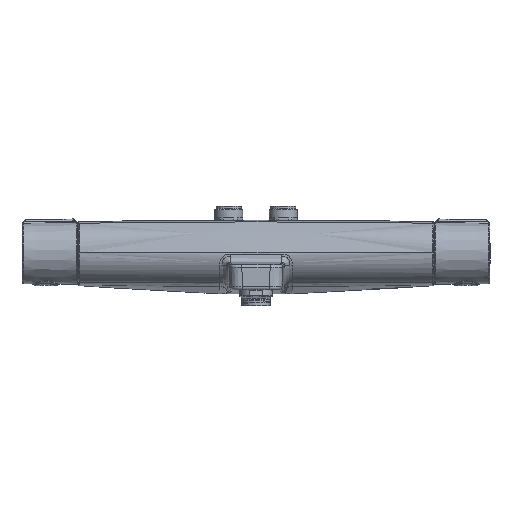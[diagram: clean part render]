
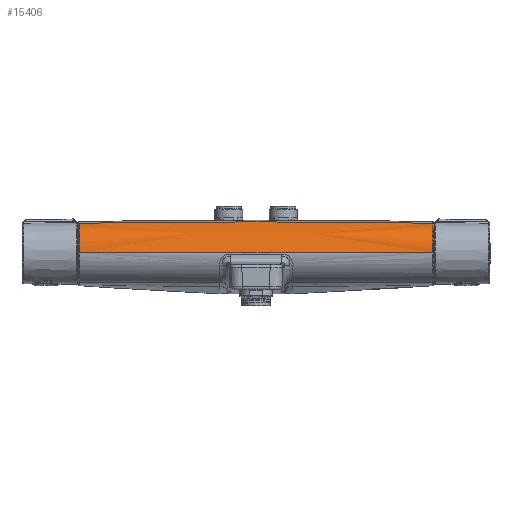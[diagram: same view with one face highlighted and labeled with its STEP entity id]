
A CAD part, top view. The second image highlights one B-rep face of the part: STEP entity #15406.
In plain terms, the highlighted free-form (B-spline) face has degree [2, 3] with [7, 4] control points.
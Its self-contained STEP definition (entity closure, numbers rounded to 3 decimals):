
#1972 = CARTESIAN_POINT ( 'NONE',  ( 129.441, 22.112, 85.242 ) ) ;
#3463 = CARTESIAN_POINT ( 'NONE',  ( 130.597, 10.764, 101.658 ) ) ;
#3665 = CARTESIAN_POINT ( 'NONE',  ( -130.994, 10.761, 101.651 ) ) ;
#4072 = CARTESIAN_POINT ( 'NONE',  ( 130.597, 22.094, 85.237 ) ) ;
#5891 = CARTESIAN_POINT ( 'NONE',  ( 129.441, 0.247, 101.68 ) ) ;
#6086 = CARTESIAN_POINT ( 'NONE',  ( 129.441, 22.112, 85.242 ) ) ;
#7160 = CARTESIAN_POINT ( 'NONE',  ( 129.441, 20.365, 89.826 ) ) ;
#8263 = CARTESIAN_POINT ( 'NONE',  ( 130.2, 22.1, 85.238 ) ) ;
#8667 = CARTESIAN_POINT ( 'NONE',  ( -130.597, 0.247, 101.658 ) ) ;
#8860 = CARTESIAN_POINT ( 'NONE',  ( -130.597, 10.764, 101.658 ) ) ;
#9059 = CARTESIAN_POINT ( 'NONE',  ( -129.441, 20.869, 89.531 ) ) ;
#10347 = EDGE_CURVE ( 'NONE', #57250, #23894, #28638, .T. ) ;
#11306 = ORIENTED_EDGE ( 'NONE', *, *, #28138, .T. ) ;
#12823 = CARTESIAN_POINT ( 'NONE',  ( 86.297, 22.745, 85.425 ) ) ;
#12851 = CARTESIAN_POINT ( 'NONE',  ( -130.994, 19.165, 95.334 ) ) ;
#13026 = CARTESIAN_POINT ( 'NONE',  ( 43.149, 23.064, 85.517 ) ) ;
#13264 = CARTESIAN_POINT ( 'NONE',  ( 0., 0.247, 103.67 ) ) ;
#13463 = CARTESIAN_POINT ( 'NONE',  ( 130.994, 22.088, 85.235 ) ) ;
#15406 = ADVANCED_FACE ( 'NONE', ( #49221 ), #37683, .F. ) ;
#15904 = VERTEX_POINT ( 'NONE', #6086 ) ;
#17591 = CARTESIAN_POINT ( 'NONE',  ( -86.298, 22.745, 85.425 ) ) ;
#17618 = CARTESIAN_POINT ( 'NONE',  ( -130.2, 19.176, 95.343 ) ) ;
#17856 =( BOUNDED_CURVE ( )  B_SPLINE_CURVE ( 2, ( #31816, #56034, #61060 ),
 .UNSPECIFIED., .F., .F. ) 
 B_SPLINE_CURVE_WITH_KNOTS ( ( 3, 3 ),
 ( 0.024, 0.976 ),
 .UNSPECIFIED. ) 
 CURVE ( )  GEOMETRIC_REPRESENTATION_ITEM ( )  RATIONAL_B_SPLINE_CURVE ( ( 1., 1., 1. ) ) 
 REPRESENTATION_ITEM ( '' )  );
#18044 = CARTESIAN_POINT ( 'NONE',  ( 0., 20.845, 96.792 ) ) ;
#18673 = B_SPLINE_CURVE_WITH_KNOTS ( 'NONE', 3,
 ( #41669, #17591, #41874, #13026, #12823, #27878 ),
 .UNSPECIFIED., .F., .F.,
 ( 4, 2, 4 ),
 ( 0., 0.5, 1. ),
 .UNSPECIFIED. ) ;
#20898 = VERTEX_POINT ( 'NONE', #5891 ) ;
#22262 = CARTESIAN_POINT ( 'NONE',  ( 0., 24.027, 85.796 ) ) ;
#22466 = CARTESIAN_POINT ( 'NONE',  ( 130.994, 10.761, 101.651 ) ) ;
#22870 = CARTESIAN_POINT ( 'NONE',  ( -129.441, 0.247, 101.68 ) ) ;
#23894 = VERTEX_POINT ( 'NONE', #56417 ) ;
#27095 = CARTESIAN_POINT ( 'NONE',  ( 130.597, 19.171, 95.339 ) ) ;
#27296 = CARTESIAN_POINT ( 'NONE',  ( -130.597, 19.171, 95.339 ) ) ;
#27878 = CARTESIAN_POINT ( 'NONE',  ( 129.441, 22.112, 85.242 ) ) ;
#27908 = CARTESIAN_POINT ( 'NONE',  ( -130.2, 10.767, 101.664 ) ) ;
#28138 = EDGE_CURVE ( 'NONE', #57250, #20898, #17856, .T. ) ;
#28638 =( BOUNDED_CURVE ( )  B_SPLINE_CURVE ( 3, ( #22870, #56714, #56086, #61115, #9059, #60709 ),
 .UNSPECIFIED., .F., .F. ) 
 B_SPLINE_CURVE_WITH_KNOTS ( ( 4, 1, 1, 4 ),
 ( 0.494, 0.494, 0.769, 1. ),
 .UNSPECIFIED. ) 
 CURVE ( )  GEOMETRIC_REPRESENTATION_ITEM ( )  RATIONAL_B_SPLINE_CURVE ( ( 1., 1., 1., 1., 1., 1. ) ) 
 REPRESENTATION_ITEM ( '' )  );
#30599 = CARTESIAN_POINT ( 'NONE',  ( 129.441, 21.432, 87.589 ) ) ;
#31046 = CARTESIAN_POINT ( 'NONE',  ( -129.441, 0.247, 101.68 ) ) ;
#31069 = B_SPLINE_CURVE_WITH_KNOTS ( 'NONE', 3,
 ( #1972, #30599, #7160, #35394, #46416, #44775, #56027, #60647 ),
 .UNSPECIFIED., .F., .F.,
 ( 4, 2, 2, 4 ),
 ( 0., 0.126, 0.253, 0.506 ),
 .UNSPECIFIED. ) ;
#31173 = ORIENTED_EDGE ( 'NONE', *, *, #52349, .F. ) ;
#31816 = CARTESIAN_POINT ( 'NONE',  ( -129.441, 0.247, 101.68 ) ) ;
#32090 = CARTESIAN_POINT ( 'NONE',  ( 0., 11.694, 103.67 ) ) ;
#32709 = CARTESIAN_POINT ( 'NONE',  ( -130.597, 22.094, 85.237 ) ) ;
#33742 = ORIENTED_EDGE ( 'NONE', *, *, #38023, .F. ) ;
#35394 = CARTESIAN_POINT ( 'NONE',  ( 129.441, 17.591, 93.857 ) ) ;
#36904 = CARTESIAN_POINT ( 'NONE',  ( 130.597, 0.247, 101.658 ) ) ;
#37113 = CARTESIAN_POINT ( 'NONE',  ( 130.2, 10.767, 101.664 ) ) ;
#37519 = CARTESIAN_POINT ( 'NONE',  ( -130.994, 22.088, 85.235 ) ) ;
#37683 =( BOUNDED_SURFACE ( )  B_SPLINE_SURFACE ( 2, 3, ( 
 ( #37519, #12851, #3665, #46284 ),
 ( #32709, #27296, #8860, #8667 ),
 ( #60722, #17618, #27908, #56520 ),
 ( #22262, #18044, #32090, #13264 ),
 ( #8263, #51085, #37113, #55691 ),
 ( #4072, #27095, #3463, #36904 ),
 ( #13463, #61131, #22466, #51299 ) ),
 .UNSPECIFIED., .F., .F., .F. ) 
 B_SPLINE_SURFACE_WITH_KNOTS ( ( 3, 2, 2, 3 ),
 ( 4, 4 ),
 ( 0.018, 0.021, 0.979, 0.982 ),
 ( 0., 1. ),
 .UNSPECIFIED. ) 
 GEOMETRIC_REPRESENTATION_ITEM ( )  RATIONAL_B_SPLINE_SURFACE ( (
 ( 1., 0.866, 0.866, 1.),
 ( 1., 0.866, 0.866, 1.),
 ( 1., 0.866, 0.866, 1.),
 ( 1., 0.866, 0.866, 1.),
 ( 1., 0.866, 0.866, 1.),
 ( 1., 0.866, 0.866, 1.),
 ( 1., 0.866, 0.866, 1.) ) ) 
 REPRESENTATION_ITEM ( '' )  SURFACE ( )  );
#38023 = EDGE_CURVE ( 'NONE', #23894, #15904, #18673, .T. ) ;
#41669 = CARTESIAN_POINT ( 'NONE',  ( -129.441, 22.112, 85.242 ) ) ;
#41874 = CARTESIAN_POINT ( 'NONE',  ( -43.149, 23.064, 85.517 ) ) ;
#44775 = CARTESIAN_POINT ( 'NONE',  ( 129.441, 10.014, 100.041 ) ) ;
#46284 = CARTESIAN_POINT ( 'NONE',  ( -130.994, 0.247, 101.651 ) ) ;
#46416 = CARTESIAN_POINT ( 'NONE',  ( 129.441, 15.883, 95.65 ) ) ;
#47245 = EDGE_LOOP ( 'NONE', ( #60854, #11306, #31173, #33742 ) ) ;
#49221 = FACE_OUTER_BOUND ( 'NONE', #47245, .T. ) ;
#51085 = CARTESIAN_POINT ( 'NONE',  ( 130.2, 19.176, 95.343 ) ) ;
#51299 = CARTESIAN_POINT ( 'NONE',  ( 130.994, 0.247, 101.651 ) ) ;
#52349 = EDGE_CURVE ( 'NONE', #15904, #20898, #31069, .T. ) ;
#55691 = CARTESIAN_POINT ( 'NONE',  ( 130.2, 0.247, 101.664 ) ) ;
#56027 = CARTESIAN_POINT ( 'NONE',  ( 129.441, 5.131, 101.684 ) ) ;
#56034 = CARTESIAN_POINT ( 'NONE',  ( 0., 0.247, 103.658 ) ) ;
#56086 = CARTESIAN_POINT ( 'NONE',  ( -129.441, 5.552, 101.684 ) ) ;
#56417 = CARTESIAN_POINT ( 'NONE',  ( -129.441, 22.112, 85.242 ) ) ;
#56520 = CARTESIAN_POINT ( 'NONE',  ( -130.2, 0.247, 101.664 ) ) ;
#56714 = CARTESIAN_POINT ( 'NONE',  ( -129.441, 0.247, 101.684 ) ) ;
#57250 = VERTEX_POINT ( 'NONE', #31046 ) ;
#60647 = CARTESIAN_POINT ( 'NONE',  ( 129.441, 0.247, 101.68 ) ) ;
#60709 = CARTESIAN_POINT ( 'NONE',  ( -129.441, 22.112, 85.242 ) ) ;
#60722 = CARTESIAN_POINT ( 'NONE',  ( -130.2, 22.1, 85.238 ) ) ;
#60854 = ORIENTED_EDGE ( 'NONE', *, *, #10347, .F. ) ;
#61060 = CARTESIAN_POINT ( 'NONE',  ( 129.441, 0.247, 101.68 ) ) ;
#61115 = CARTESIAN_POINT ( 'NONE',  ( -129.441, 15.317, 98.115 ) ) ;
#61131 = CARTESIAN_POINT ( 'NONE',  ( 130.994, 19.165, 95.334 ) ) ;
